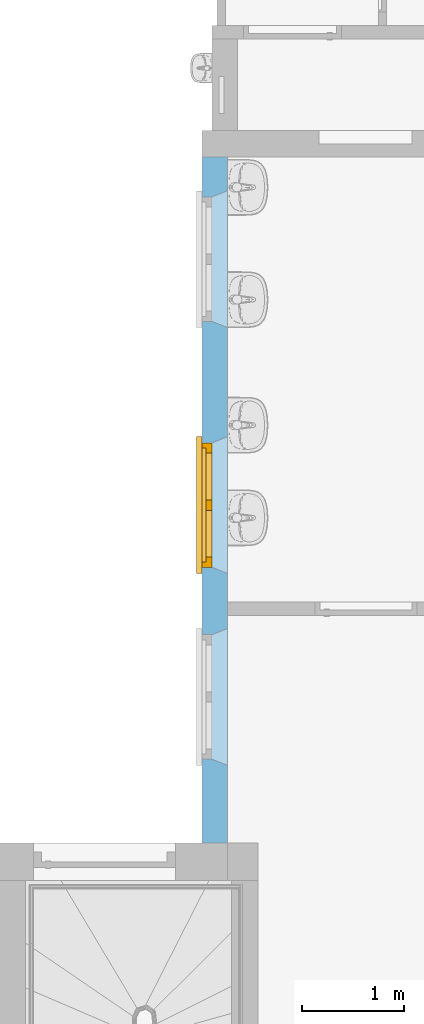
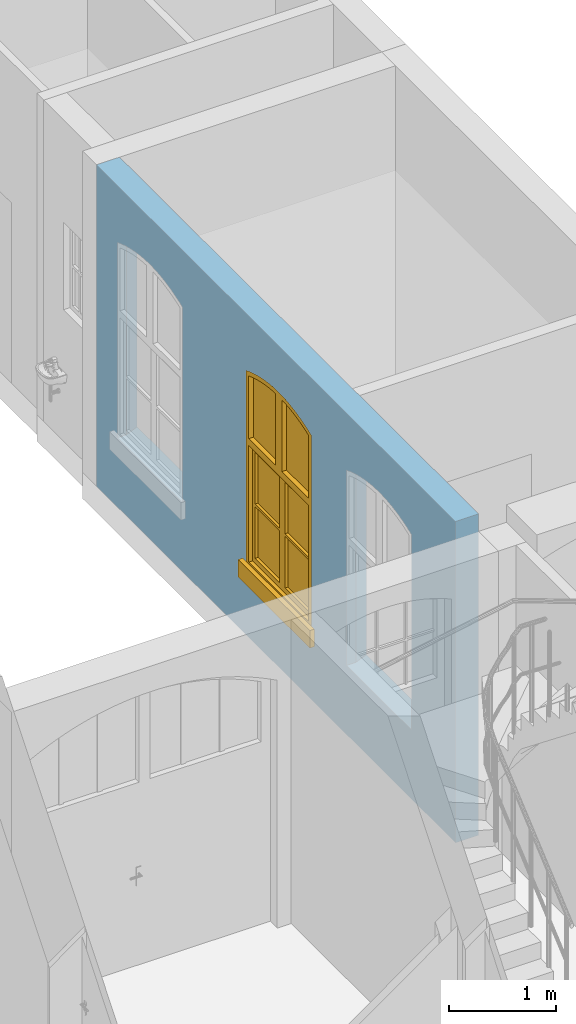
"""IFC4 building model written with IfcOpenShell, lengths in metres."""

import ifcopenshell
import ifcopenshell.guid

model = None  # the IFC model being written
_history = None  # IfcOwnerHistory: only IFC2X3 demands one
_inside = {}  # id of a spatial element -> (the spatial element, [elements in it])
_under = {}  # id of a project, library or spatial element -> (it, [spatial elements below it])
_declared = {}  # id of a project -> (the project, [libraries it declares])
_typed = {}  # id of a type object -> (the type object, [elements of that type])
_made_of = {}  # id of a material, layer set ... -> (it, [elements and type objects made of it])


def new_model(schema):
    """Start an empty IFC model of exactly this schema.

    Asked for "IFC4X3", IfcOpenShell would pick the latest addendum, in which some entities
    have other attributes; the version numbers below select the first issue.
    IFC2X3 requires an IfcOwnerHistory on every rooted entity: one is made here for all.
    """
    global model, _history
    if schema == "IFC4X3":
        model = ifcopenshell.file(schema_version=(4, 3, 0, 0))
    else:
        model = ifcopenshell.file(schema=schema)
    _inside.clear()
    _under.clear()
    _declared.clear()
    _typed.clear()
    _made_of.clear()
    _history = None
    if model.schema == "IFC2X3":
        org = make("IfcOrganization", Name="unknown")
        user = make(
            "IfcPersonAndOrganization",
            ThePerson=make("IfcPerson", FamilyName="unknown"),
            TheOrganization=org,
        )
        app = make(
            "IfcApplication",
            ApplicationDeveloper=org,
            Version="unknown",
            ApplicationFullName="unknown",
            ApplicationIdentifier="unknown",
        )
        _history = make(
            "IfcOwnerHistory",
            OwningUser=user,
            OwningApplication=app,
            ChangeAction="ADDED",
            CreationDate=0,
        )
    return model


def make(cls, **values):
    """One entity of the class cls with the attributes given. An attribute that is None is left unset."""
    return model.create_entity(
        cls, **{name: value for name, value in values.items() if value is not None}
    )


def entity(cls, *values):
    """Any entity or typed value of the class cls, its attributes in the order of the schema. None: left unset."""
    e = model.create_entity(cls)
    for i, value in enumerate(values):
        if value is not None:
            e[i] = value
    return e


def rooted(cls, **values):
    """An entity with a GlobalId (a new one), such as an element, a storey or a relation."""
    return make(cls, GlobalId=ifcopenshell.guid.new(), OwnerHistory=_history, **values)


def si_unit(unit_type, name, prefix=None):
    """IfcSIUnit, for example si_unit("LENGTHUNIT", "METRE", prefix="MILLI")."""
    return make("IfcSIUnit", UnitType=unit_type, Prefix=prefix, Name=name)


def converted_unit(unit_type, name, factor, base, dimensions=None, offset=None):
    """IfcConversionBasedUnit, such as the inch: factor (a typed value) times the base unit."""
    return make(
        "IfcConversionBasedUnit"
        if offset is None
        else "IfcConversionBasedUnitWithOffset",
        ConversionOffset=offset,
        Dimensions=None
        if dimensions is None
        else entity("IfcDimensionalExponents", *dimensions),
        UnitType=unit_type,
        Name=name,
        ConversionFactor=make(
            "IfcMeasureWithUnit", ValueComponent=factor, UnitComponent=base
        ),
    )


def derived_unit(unit_type, elements):
    """IfcDerivedUnit: a product of units, each with its exponent."""
    return make(
        "IfcDerivedUnit",
        Elements=[
            make("IfcDerivedUnitElement", Unit=unit, Exponent=power)
            for unit, power in elements
        ],
        UnitType=unit_type,
    )


def assignment(units):
    """IfcUnitAssignment: the units of a project."""
    return None if units is None else make("IfcUnitAssignment", Units=units)


def point(xyz):
    """IfcCartesianPoint."""
    return None if xyz is None else make("IfcCartesianPoint", Coordinates=xyz)


def direction(xyz):
    """IfcDirection."""
    return None if xyz is None else make("IfcDirection", DirectionRatios=xyz)


def frame(location, z_axis=None, x_axis=None):
    """IfcAxis2Placement3D, a coordinate frame: its origin and axes. An axis left out is left unset."""
    return make(
        "IfcAxis2Placement3D",
        Location=point(location),
        Axis=direction(z_axis),
        RefDirection=direction(x_axis),
    )


def frame_2d(location, x_axis=None):
    """IfcAxis2Placement2D, a coordinate frame in the plane: its origin and x axis."""
    return make(
        "IfcAxis2Placement2D", Location=point(location), RefDirection=direction(x_axis)
    )


def origin():
    """The frame at (0, 0, 0) with its axes left unset."""
    return frame((0.0, 0.0, 0.0))


def origin_with_axes():
    """The frame at (0, 0, 0) with the z axis (0, 0, 1) and the x axis (1, 0, 0) written out."""
    return frame((0.0, 0.0, 0.0), z_axis=(0.0, 0.0, 1.0), x_axis=(1.0, 0.0, 0.0))


def place(relative_to, where):
    """IfcLocalPlacement: puts the frame where relative to a parent placement (None: the world)."""
    return make(
        "IfcLocalPlacement", PlacementRelTo=relative_to, RelativePlacement=where
    )


def context(
    kind, dimensions, precision=None, world=None, true_north=None, identifier=None
):
    """IfcGeometricRepresentationContext, for example the 3D "Model" context."""
    return make(
        "IfcGeometricRepresentationContext",
        ContextIdentifier=identifier,
        ContextType=kind,
        CoordinateSpaceDimension=dimensions,
        Precision=precision,
        WorldCoordinateSystem=world,
        TrueNorth=true_north,
    )


def subcontext(parent, identifier, kind, view, scale=None):
    """IfcGeometricRepresentationSubContext, for example "Body" below "Model"."""
    return make(
        "IfcGeometricRepresentationSubContext",
        ContextIdentifier=identifier,
        ContextType=kind,
        ParentContext=parent,
        TargetScale=scale,
        TargetView=view,
    )


def project(units=None, contexts=None):
    """IfcProject with its units and contexts."""
    return rooted(
        "IfcProject",
        Name="project",
        RepresentationContexts=contexts,
        UnitsInContext=assignment(units),
    )


def spatial(cls, under=None, at=None, **own):
    """A site, building, storey or space (cls), placed at a placement, below another one or the project."""
    s = rooted(cls, ObjectPlacement=at, **own)
    if under is not None:
        _under.setdefault(under.id(), (under, []))[1].append(s)
    return s


def polyline(points):
    """IfcPolyline through the points."""
    return make("IfcPolyline", Points=[point(p) for p in points])


def profile(cls, at=None, kind="AREA", **sizes):
    """A parametric profile (cls). Its sizes go by their IFC names, for example OverallWidth=200.0."""
    return make(cls, ProfileType=kind, Position=at, **sizes)


def rectangle(**sizes):
    """IfcRectangleProfileDef."""
    return profile("IfcRectangleProfileDef", **sizes)


def outline(outer, holes=None, kind="AREA"):
    """IfcArbitraryClosedProfileDef: a profile drawn as a closed curve; with holes, ...WithVoids."""
    if holes is None:
        return make("IfcArbitraryClosedProfileDef", ProfileType=kind, OuterCurve=outer)
    return make(
        "IfcArbitraryProfileDefWithVoids",
        ProfileType=kind,
        OuterCurve=outer,
        InnerCurves=holes,
    )


def extrude(swept, where, along, depth):
    """IfcExtrudedAreaSolid: the profile swept, set in the frame where, extruded along a direction by depth."""
    return make(
        "IfcExtrudedAreaSolid",
        SweptArea=swept,
        Position=where,
        ExtrudedDirection=direction(along),
        Depth=depth,
    )


def faces_of(points, faces, orient=None, outer=None):
    """IfcFace entities. A face is a list of loops; a loop is a list of indices into points, from 0.

    orient and outer hold one flag for each loop. By default every Orientation is true, the
    first loop of a face is its IfcFaceOuterBound and the others are IfcFaceBound.
    """
    made = []
    for i, loops in enumerate(faces):
        bounds = []
        for j, loop in enumerate(loops):
            is_outer = j == 0 if outer is None else outer[i][j]
            bounds.append(
                make(
                    "IfcFaceOuterBound" if is_outer else "IfcFaceBound",
                    Bound=make("IfcPolyLoop", Polygon=[points[k] for k in loop]),
                    Orientation=True if orient is None else orient[i][j],
                )
            )
        made.append(make("IfcFace", Bounds=bounds))
    return made


def closed_shell(faces, orient=None, outer=None):
    """The faces of one IfcClosedShell. faceted_brep and surface_model build it on their shared points."""
    return ("IfcClosedShell", faces, orient, outer)


def open_shell(faces, orient=None, outer=None):
    """The faces of one IfcOpenShell. surface_model builds it on its shared points."""
    return ("IfcOpenShell", faces, orient, outer)


def surface_model(cls, points, shells):
    """IfcFaceBasedSurfaceModel or IfcShellBasedSurfaceModel (cls): surfaces that need not close."""
    shared = [point(p) for p in points]
    made = [make(c, CfsFaces=faces_of(shared, fs, o, b)) for c, fs, o, b in shells]
    if cls == "IfcFaceBasedSurfaceModel":
        return make(cls, FbsmFaces=made)
    return make(cls, SbsmBoundary=made)


def shape(context_of_items, identifier, shape_type, items):
    """IfcShapeRepresentation: the items that make up one representation, for example the "Body"."""
    return make(
        "IfcShapeRepresentation",
        ContextOfItems=context_of_items,
        RepresentationIdentifier=identifier,
        RepresentationType=shape_type,
        Items=items,
    )


def source(mapping_origin, context_of_items, identifier, shape_type, items):
    """IfcRepresentationMap: a shape defined once, which mapped items show again and again."""
    return make(
        "IfcRepresentationMap",
        MappingOrigin=mapping_origin,
        MappedRepresentation=shape(context_of_items, identifier, shape_type, items),
    )


def transform(
    local_origin,
    x_axis=None,
    y_axis=None,
    z_axis=None,
    scale=None,
    scale2=None,
    scale3=None,
    uniform=True,
):
    """IfcCartesianTransformationOperator3D, or its non-uniform kind. x_axis, y_axis, z_axis: its Axis1, 2, 3."""
    if uniform:
        return make(
            "IfcCartesianTransformationOperator3D",
            Axis1=direction(x_axis),
            Axis2=direction(y_axis),
            LocalOrigin=point(local_origin),
            Scale=scale,
            Axis3=direction(z_axis),
        )
    return make(
        "IfcCartesianTransformationOperator3DnonUniform",
        Axis1=direction(x_axis),
        Axis2=direction(y_axis),
        LocalOrigin=point(local_origin),
        Scale=scale,
        Axis3=direction(z_axis),
        Scale2=scale2,
        Scale3=scale3,
    )


def mapped(mapping_source, mapping_target):
    """IfcMappedItem: shows the shape of a source again, moved by a transform."""
    return make(
        "IfcMappedItem", MappingSource=mapping_source, MappingTarget=mapping_target
    )


def material(Name=None, Category=None):
    """IfcMaterial."""
    return make("IfcMaterial", Name=Name, Category=Category)


def layer(
    of_material, thickness, ventilated=None, Name=None, Category=None, Priority=None
):
    """IfcMaterialLayer: one layer of a wall or slab, of a material (None: an air gap)."""
    return make(
        "IfcMaterialLayer",
        Material=of_material,
        LayerThickness=thickness,
        IsVentilated=ventilated,
        Name=Name,
        Category=Category,
        Priority=Priority,
    )


def layer_set(layers, Name=None):
    """IfcMaterialLayerSet."""
    return make("IfcMaterialLayerSet", MaterialLayers=layers, LayerSetName=Name)


def layer_usage(for_layer_set, set_direction, sense, offset, extent=None):
    """IfcMaterialLayerSetUsage: how a layer set lies in its element."""
    return make(
        "IfcMaterialLayerSetUsage",
        ForLayerSet=for_layer_set,
        LayerSetDirection=set_direction,
        DirectionSense=sense,
        OffsetFromReferenceLine=offset,
        ReferenceExtent=extent,
    )


def made_of(thing, what):
    """Note that an element or type object is made of a material, layer set ...; save() writes the relation."""
    if what is not None:
        _made_of.setdefault(what.id(), (what, []))[1].append(thing)
    return thing


def element(
    cls,
    number,
    at=None,
    inside=None,
    cuts=None,
    type_object=None,
    material=None,
    context=None,
    identifier="Body",
    shape_type=None,
    held_by="IfcProductDefinitionShape",
    body=None,
    shapes=None,
    **own,
):
    """One element of the class cls, such as IfcWall. Its Tag is "e" and its number.

    at: its placement. inside: the storey or other place that contains it. cuts: it is an
    opening in that element (IfcRelVoidsElement). A single representation is given by context,
    identifier, shape_type and body (its items); several are given by shapes. held_by: the class
    of the entity that holds the representations. save() writes the other relations.
    """
    e = rooted(cls, Tag="e%d" % number, ObjectPlacement=at, **own)
    if body is not None:
        shapes = [shape(context, identifier, shape_type, body)]
    if shapes is not None:
        e.Representation = make(held_by, Representations=shapes)
    if inside is not None:
        _inside.setdefault(inside.id(), (inside, []))[1].append(e)
    if cuts is not None:
        rooted(
            "IfcRelVoidsElement", RelatingBuildingElement=cuts, RelatedOpeningElement=e
        )
    if type_object is not None:
        _typed.setdefault(type_object.id(), (type_object, []))[1].append(e)
    return made_of(e, material)


def fill(opening, filler):
    """IfcRelFillsElement: the door or window that sits in an opening."""
    return rooted(
        "IfcRelFillsElement",
        RelatingOpeningElement=opening,
        RelatedBuildingElement=filler,
    )


def aggregate(whole, parts):
    """IfcRelAggregates: a whole, such as a stair, and the parts it consists of."""
    return rooted("IfcRelAggregates", RelatingObject=whole, RelatedObjects=parts)


def save(model, path):
    """Write the relations noted so far, then the file.

    IfcRelAggregates (storeys below a building ...), IfcRelContainedInSpatialStructure (elements
    in a storey), IfcRelDefinesByType, IfcRelAssociatesMaterial and IfcRelDeclares: one each for
    every whole, place, type object, material and project.
    """
    for whole, parts in _under.values():
        aggregate(whole, parts)
    for where, things in _inside.values():
        rooted(
            "IfcRelContainedInSpatialStructure",
            RelatedElements=things,
            RelatingStructure=where,
        )
    for kind, things in _typed.values():
        rooted("IfcRelDefinesByType", RelatedObjects=things, RelatingType=kind)
    for what, things in _made_of.values():
        rooted("IfcRelAssociatesMaterial", RelatedObjects=things, RelatingMaterial=what)
    for by, libraries in _declared.values():
        rooted("IfcRelDeclares", RelatingContext=by, RelatedDefinitions=libraries)
    model.write(path)


model = new_model("IFC4")

# Units and contexts
model_context = context("Model", 3, precision=1e-05, world=origin())
body_context = subcontext(model_context, "Body", "Model", "MODEL_VIEW")
ifc_project = project(units=[si_unit("LENGTHUNIT", "METRE"), si_unit("AREAUNIT", "SQUARE_METRE"), si_unit("VOLUMEUNIT", "CUBIC_METRE"), si_unit("MASSUNIT", "GRAM", prefix="KILO"), converted_unit("PLANEANGLEUNIT", "DEGREE", entity("IfcPlaneAngleMeasure", 0.0174532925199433), si_unit("PLANEANGLEUNIT", "RADIAN"), dimensions=[0, 0, 0, 0, 0, 0, 0]), derived_unit("THERMALTRANSMITTANCEUNIT", [(si_unit("POWERUNIT", "WATT"), 1), (si_unit("THERMODYNAMICTEMPERATUREUNIT", "KELVIN"), -1), (si_unit("LENGTHUNIT", "METRE"), -2)]), derived_unit("VOLUMETRICFLOWRATEUNIT", [(si_unit("LENGTHUNIT", "METRE"), 3), (converted_unit("TIMEUNIT", "hour", entity("IfcTimeMeasure", 3600.0), si_unit("TIMEUNIT", "SECOND"), dimensions=[0, 0, 1, 0, 0, 0, 0]), -1), (si_unit("LENGTHUNIT", "METRE"), -1)])], contexts=[model_context])

# Building, storeys
building_placement = place(None, origin())
building = spatial("IfcBuilding", under=ifc_project, at=building_placement, Name="Bestandsgebäude A - Sporthalle / Wohnhaus (TB 100-499)   ANPASSEN !!!", CompositionType="ELEMENT")
storey_1_placement = place(building_placement, origin())
storey_1 = spatial("IfcBuildingStorey", under=building, at=storey_1_placement, Name="Geb. A Erdgeschoss (TB 200-249)", CompositionType="ELEMENT", Elevation=0.0)
storey_2_placement = place(storey_1_placement, origin())
storey_2 = spatial("IfcBuildingStorey", under=storey_1, at=storey_2_placement, Name="Architektur (TB 200-209)", CompositionType="PARTIAL")

# Wall, openings, window
ifc_material = material(Name="concrete")
ifc_layer = layer(ifc_material, 0.25)
ifc_layer_set = layer_set([ifc_layer])
ifc_layer_usage = layer_usage(ifc_layer_set, "AXIS2", "POSITIVE", 0.0)
wall_placement = place(storey_2_placement, frame((-3.49000000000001, 15.97, 0.0), z_axis=(0.0, 0.0, 1.0), x_axis=(-2.70682946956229e-16, -1.0, 0.0)))
wall = element("IfcWall", 1, at=wall_placement, inside=storey_2, material=ifc_layer_usage, Name="reinforced - bearing", PredefinedType="USERDEFINED", context=body_context, shape_type="SweptSolid", body=[
    extrude(rectangle(XDim=6.72, YDim=0.25, at=frame_2d((3.36, 0.125), x_axis=(1.0, 0.0))), origin_with_axes(), (0.0, 0.0, 1.0), 3.67),
])
opening_1_placement = place(wall_placement, frame((5.96, 0.25, 0.79), z_axis=(0.0, 0.0, 1.0), x_axis=(-1.0, 6.36306927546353e-17, 0.0)))
element("IfcOpeningElement", 2, at=opening_1_placement, cuts=wall, Name="Wall Niche", ObjectType="Opening", context=body_context, shape_type="SweptSolid", body=[
    extrude(outline(polyline([(0.0, 0.0), (1.34000000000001, 0.0), (1.28000000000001, 0.15), (0.0600000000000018, 0.15), (0.0, 0.0)])), origin_with_axes(), (0.0, 0.0, 1.0), 2.3),
])
opening_2_placement = place(wall_placement, frame((4.08, 0.25, 0.79), z_axis=(0.0, 0.0, 1.0), x_axis=(-1.0, 6.36306927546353e-17, 0.0)))
element("IfcOpeningElement", 3, at=opening_2_placement, cuts=wall, Name="Wall Niche", ObjectType="Opening", context=body_context, shape_type="SweptSolid", body=[
    extrude(outline(polyline([(0.0, 0.0), (1.34000000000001, 0.0), (1.28000000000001, 0.15), (0.0600000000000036, 0.15), (0.0, 0.0)])), origin_with_axes(), (0.0, 0.0, 1.0), 2.3),
])
opening_3_placement = place(wall_placement, frame((1.67, 0.25, 0.79), z_axis=(0.0, 0.0, 1.0), x_axis=(-1.0, -2.75733001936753e-16, 0.0)))
element("IfcOpeningElement", 4, at=opening_3_placement, cuts=wall, Name="Wall Niche", ObjectType="Opening", context=body_context, shape_type="SweptSolid", body=[
    extrude(outline(polyline([(0.0, 0.0), (1.34000000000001, 0.0), (1.28000000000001, 0.15), (0.06, 0.15), (0.0, 0.0)])), origin_with_axes(), (0.0, 0.0, 1.0), 2.3),
])
opening_4_placement = place(wall_placement, frame((4.68, 0.0, 0.79), z_axis=(0.0, 1.0, 0.0), x_axis=(0.0, 0.0, 1.0)))
element("IfcOpeningElement", 5, at=opening_4_placement, cuts=wall, Name="Window opening", PredefinedType="OPENING", context=body_context, shape_type="SweptSolid", body=[
    extrude(outline(polyline([(2.23, 1.22), (2.24529668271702, 1.18119974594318), (2.25958346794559, 1.14201638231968), (2.27285077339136, 1.102476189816), (2.28508970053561, 1.06260568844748), (2.29629204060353, 1.02243161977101), (2.30645028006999, 0.981980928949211), (2.31555760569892, 0.941280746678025), (2.32360790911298, 0.900358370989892), (2.33059579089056, 0.859241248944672), (2.33651656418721, 0.817956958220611), (2.34136625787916, 0.776533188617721), (2.34514161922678, 0.734997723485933), (2.34784011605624, 0.693378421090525), (2.34945993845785, 0.65170319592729), (2.35, 0.610000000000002), (2.34945993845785, 0.568296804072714), (2.34784011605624, 0.52662157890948), (2.34514161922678, 0.485002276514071), (2.34136625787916, 0.443466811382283), (2.33651656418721, 0.40204304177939), (2.33059579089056, 0.360758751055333), (2.32360790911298, 0.31964162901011), (2.31555760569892, 0.278719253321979), (2.30645028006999, 0.23801907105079), (2.29629204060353, 0.197568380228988), (2.2850897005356, 0.15739431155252), (2.27285077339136, 0.117523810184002), (2.25958346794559, 0.0779836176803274), (2.24529668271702, 0.0388002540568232), (2.23, 0.0), (0.0, 0.0), (0.0, 1.22), (2.23, 1.22)])), origin_with_axes(), (0.0, 0.0, 1.0), 0.25),
])
opening_5_placement = place(wall_placement, frame((2.79999999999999, 0.0, 0.79), z_axis=(0.0, 1.0, 0.0), x_axis=(0.0, 0.0, 1.0)))
opening_5 = element("IfcOpeningElement", 6, at=opening_5_placement, cuts=wall, Name="Window opening", PredefinedType="OPENING", context=body_context, shape_type="SweptSolid", body=[
    extrude(outline(polyline([(2.23, 1.22000000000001), (2.24529668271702, 1.18119974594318), (2.25958346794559, 1.14201638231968), (2.27285077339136, 1.102476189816), (2.2850897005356, 1.06260568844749), (2.29629204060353, 1.02243161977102), (2.30645028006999, 0.981980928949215), (2.31555760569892, 0.941280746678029), (2.32360790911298, 0.900358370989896), (2.33059579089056, 0.859241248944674), (2.33651656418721, 0.817956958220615), (2.34136625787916, 0.776533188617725), (2.34514161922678, 0.734997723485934), (2.34784011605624, 0.693378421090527), (2.34945993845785, 0.651703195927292), (2.35, 0.610000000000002), (2.34945993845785, 0.568296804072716), (2.34784011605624, 0.52662157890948), (2.34514161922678, 0.485002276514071), (2.34136625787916, 0.443466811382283), (2.33651656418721, 0.402043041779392), (2.33059579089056, 0.360758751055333), (2.32360790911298, 0.319641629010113), (2.31555760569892, 0.278719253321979), (2.30645028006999, 0.23801907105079), (2.29629204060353, 0.19756838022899), (2.2850897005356, 0.15739431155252), (2.27285077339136, 0.117523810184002), (2.25958346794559, 0.0779836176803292), (2.24529668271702, 0.0388002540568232), (2.23, 0.0), (0.0, 0.0), (0.0, 1.22000000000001), (2.23, 1.22000000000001)])), origin_with_axes(), (0.0, 0.0, 1.0), 0.25),
])
opening_6_placement = place(wall_placement, frame((0.389999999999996, 0.0, 0.79), z_axis=(-2.27373675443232e-16, 1.0, 0.0), x_axis=(0.0, 0.0, 1.0)))
element("IfcOpeningElement", 7, at=opening_6_placement, cuts=wall, Name="Window opening", PredefinedType="OPENING", context=body_context, shape_type="SweptSolid", body=[
    extrude(outline(polyline([(2.23, 1.22), (2.24529668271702, 1.18119974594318), (2.25958346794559, 1.14201638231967), (2.27285077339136, 1.102476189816), (2.28508970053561, 1.06260568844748), (2.29629204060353, 1.02243161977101), (2.30645028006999, 0.981980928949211), (2.31555760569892, 0.941280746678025), (2.32360790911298, 0.900358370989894), (2.33059579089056, 0.859241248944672), (2.33651656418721, 0.817956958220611), (2.34136625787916, 0.776533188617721), (2.34514161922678, 0.734997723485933), (2.34784011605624, 0.693378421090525), (2.34945993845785, 0.65170319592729), (2.35, 0.610000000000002), (2.34945993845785, 0.568296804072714), (2.34784011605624, 0.526621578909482), (2.34514161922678, 0.485002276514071), (2.34136625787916, 0.443466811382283), (2.33651656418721, 0.40204304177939), (2.33059579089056, 0.360758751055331), (2.32360790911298, 0.31964162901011), (2.31555760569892, 0.278719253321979), (2.30645028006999, 0.23801907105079), (2.29629204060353, 0.19756838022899), (2.2850897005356, 0.15739431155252), (2.27285077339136, 0.117523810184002), (2.25958346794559, 0.0779836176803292), (2.24529668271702, 0.0388002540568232), (2.23, 0.0), (0.0, 0.0), (0.0, 1.22), (2.23, 1.22)])), origin_with_axes(), (0.0, 0.0, 1.0), 0.25),
])
shared_shape = source(origin_with_axes(), body_context, "Body", "SurfaceModel", [
    surface_model("IfcShellBasedSurfaceModel", [(1.28, 0.15, -0.15), (1.28, 0.0999999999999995, -0.15), (1.28, 0.0999999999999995, 0.05), (1.28, 0.15, 0.05), (-0.0600000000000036, 0.0999999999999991, -0.15), (-0.0600000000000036, 0.149999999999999, -0.15), (-0.0600000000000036, 0.149999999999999, 0.0500000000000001), (-0.0600000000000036, 0.0999999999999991, 0.0500000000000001)], [closed_shell([[[0, 1, 2, 3]], [[4, 5, 6, 7]], [[1, 0, 5, 4]], [[2, 1, 4, 7]], [[3, 2, 7, 6]], [[0, 3, 6, 5]]], orient=[[False], [False], [False], [False], [False], [False]])]),
    surface_model("IfcShellBasedSurfaceModel", [(1.181199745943, 0.0, 2.245296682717), (1.22, 0.0, 2.23), (1.22, 0.0, 0.0), (0.0, 0.0, 0.0), (0.0, 0.0, 2.23), (0.038800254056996, 0.0, 2.245296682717), (0.0779836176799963, 0.0, 2.259583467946), (0.117523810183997, 0.0, 2.272850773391), (0.157394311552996, 0.0, 2.285089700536), (0.197568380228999, 0.0, 2.296292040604), (0.238019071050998, 0.0, 2.30645028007), (0.278719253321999, 0.0, 2.315557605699), (0.319641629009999, 0.0, 2.323607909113), (0.360758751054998, 0.0, 2.330595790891), (0.402043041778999, 0.0, 2.336516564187), (0.443466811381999, 0.0, 2.341366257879), (0.485002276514, 0.0, 2.345141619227), (0.526621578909, 0.0, 2.347840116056), (0.568296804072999, 0.0, 2.349459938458), (0.61, 0.0, 2.35), (0.651703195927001, 0.0, 2.349459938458), (0.693378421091, 0.0, 2.347840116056), (0.734997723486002, 0.0, 2.345141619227), (0.776533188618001, 0.0, 2.341366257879), (0.817956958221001, 0.0, 2.336516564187), (0.859241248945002, 0.0, 2.330595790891), (0.900358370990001, 0.0, 2.323607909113), (0.941280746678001, 0.0, 2.315557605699), (0.981980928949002, 0.0, 2.30645028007), (1.022431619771, 0.0, 2.296292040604), (1.062605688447, 0.0, 2.285089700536), (1.102476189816, 0.0, 2.272850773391), (1.14201638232, 0.0, 2.259583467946), (1.17, 0.0, 2.19596670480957), (1.16346372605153, 0.0, 2.19854357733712), (1.12549702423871, 0.0, 2.21238675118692), (1.08718457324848, 0.0, 2.22524210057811), (1.04855206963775, 0.0, 2.23710100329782), (1.00962542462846, 0.0, 2.24795550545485), (0.970430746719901, 0.0, 2.25779832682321), (0.930994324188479, 0.0, 2.26662286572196), (0.891342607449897, 0.0, 2.27442320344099), (0.851502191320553, 0.0, 2.28119410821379), (0.811499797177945, 0.0, 2.28693103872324), (0.77136225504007, 0.0, 2.29163014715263), (0.731116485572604, 0.0, 2.29528828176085), (0.690789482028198, 0.0, 2.29790298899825), (0.650408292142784, 0.0, 2.2994725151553), (0.61, 0.0, 2.29999580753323), (0.569591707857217, 0.0, 2.2994725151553), (0.529210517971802, 0.0, 2.29790298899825), (0.488883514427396, 0.0, 2.29528828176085), (0.448637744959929, 0.0, 2.29163014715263), (0.408500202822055, 0.0, 2.28693103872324), (0.368497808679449, 0.0, 2.28119410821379), (0.328657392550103, 0.0, 2.27442320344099), (0.289005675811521, 0.0, 2.26662286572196), (0.249569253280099, 0.0, 2.25779832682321), (0.210374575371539, 0.0, 2.24795550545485), (0.171447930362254, 0.0, 2.23710100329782), (0.132815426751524, 0.0, 2.22524210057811), (0.0945029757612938, 0.0, 2.21238675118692), (0.0565362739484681, 0.0, 2.19854357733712), (0.0499999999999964, 0.0, 2.19596670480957), (0.0499999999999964, 0.0, 0.07), (1.17, 0.0, 0.07), (1.22, 0.0999999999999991, 2.23), (1.181199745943, 0.0999999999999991, 2.245296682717), (1.14201638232, 0.0999999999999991, 2.259583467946), (1.102476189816, 0.0999999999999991, 2.272850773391), (1.062605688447, 0.0999999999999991, 2.285089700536), (1.022431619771, 0.0999999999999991, 2.296292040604), (0.981980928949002, 0.0999999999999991, 2.30645028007), (0.941280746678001, 0.0999999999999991, 2.315557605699), (0.900358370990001, 0.0999999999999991, 2.323607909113), (0.859241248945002, 0.0999999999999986, 2.330595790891), (0.817956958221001, 0.0999999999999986, 2.336516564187), (0.776533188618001, 0.0999999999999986, 2.341366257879), (0.734997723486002, 0.0999999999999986, 2.345141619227), (0.693378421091, 0.0999999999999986, 2.347840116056), (0.651703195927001, 0.0999999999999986, 2.349459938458), (0.61, 0.0999999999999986, 2.35), (0.568296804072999, 0.0999999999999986, 2.349459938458), (0.526621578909, 0.0999999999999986, 2.347840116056), (0.485002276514, 0.0999999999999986, 2.345141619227), (0.443466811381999, 0.0999999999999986, 2.341366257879), (0.402043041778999, 0.0999999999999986, 2.336516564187), (0.360758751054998, 0.0999999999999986, 2.330595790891), (0.319641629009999, 0.0999999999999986, 2.323607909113), (0.278719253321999, 0.0999999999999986, 2.315557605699), (0.238019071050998, 0.0999999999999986, 2.30645028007), (0.197568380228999, 0.0999999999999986, 2.296292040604), (0.157394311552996, 0.0999999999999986, 2.285089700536), (0.117523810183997, 0.0999999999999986, 2.272850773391), (0.0779836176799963, 0.0999999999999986, 2.259583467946), (0.038800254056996, 0.0999999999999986, 2.245296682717), (0.0, 0.0999999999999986, 2.23), (0.0, 0.0999999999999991, 0.0), (1.22, 0.0999999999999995, 0.0), (1.16346372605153, 0.0999999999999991, 2.19854357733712), (1.17, 0.0999999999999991, 2.19596670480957), (1.17, 0.0999999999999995, 0.07), (0.0499999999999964, 0.0999999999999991, 0.07), (0.0499999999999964, 0.0999999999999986, 2.19596670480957), (0.0565362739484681, 0.0999999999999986, 2.19854357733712), (0.0945029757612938, 0.0999999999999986, 2.21238675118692), (0.132815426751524, 0.0999999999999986, 2.22524210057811), (0.171447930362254, 0.0999999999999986, 2.23710100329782), (0.210374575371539, 0.0999999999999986, 2.24795550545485), (0.249569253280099, 0.0999999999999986, 2.25779832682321), (0.289005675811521, 0.0999999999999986, 2.26662286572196), (0.328657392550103, 0.0999999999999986, 2.27442320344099), (0.368497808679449, 0.0999999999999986, 2.28119410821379), (0.408500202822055, 0.0999999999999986, 2.28693103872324), (0.448637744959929, 0.0999999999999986, 2.29163014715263), (0.488883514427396, 0.0999999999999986, 2.29528828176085), (0.529210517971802, 0.0999999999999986, 2.29790298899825), (0.569591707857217, 0.0999999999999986, 2.2994725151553), (0.61, 0.0999999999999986, 2.29999580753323), (0.650408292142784, 0.0999999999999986, 2.2994725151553), (0.690789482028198, 0.0999999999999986, 2.29790298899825), (0.731116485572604, 0.0999999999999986, 2.29528828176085), (0.77136225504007, 0.0999999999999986, 2.29163014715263), (0.811499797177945, 0.0999999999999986, 2.28693103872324), (0.851502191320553, 0.0999999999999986, 2.28119410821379), (0.891342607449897, 0.0999999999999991, 2.27442320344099), (0.930994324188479, 0.0999999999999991, 2.26662286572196), (0.970430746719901, 0.0999999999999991, 2.25779832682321), (1.00962542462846, 0.0999999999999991, 2.24795550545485), (1.04855206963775, 0.0999999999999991, 2.23710100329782), (1.08718457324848, 0.0999999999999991, 2.22524210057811), (1.12549702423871, 0.0999999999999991, 2.21238675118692)], [closed_shell([[[0, 1, 2, 3, 4, 5, 6, 7, 8, 9, 10, 11, 12, 13, 14, 15, 16, 17, 18, 19, 20, 21, 22, 23, 24, 25, 26, 27, 28, 29, 30, 31, 32], [33, 34, 35, 36, 37, 38, 39, 40, 41, 42, 43, 44, 45, 46, 47, 48, 49, 50, 51, 52, 53, 54, 55, 56, 57, 58, 59, 60, 61, 62, 63, 64, 65]], [[66, 67, 68, 69, 70, 71, 72, 73, 74, 75, 76, 77, 78, 79, 80, 81, 82, 83, 84, 85, 86, 87, 88, 89, 90, 91, 92, 93, 94, 95, 96, 97, 98], [99, 100, 101, 102, 103, 104, 105, 106, 107, 108, 109, 110, 111, 112, 113, 114, 115, 116, 117, 118, 119, 120, 121, 122, 123, 124, 125, 126, 127, 128, 129, 130, 131]], [[1, 0, 67, 66]], [[2, 1, 66, 98]], [[3, 2, 98, 97]], [[4, 3, 97, 96]], [[5, 4, 96, 95]], [[6, 5, 95, 94]], [[7, 6, 94, 93]], [[8, 7, 93, 92]], [[9, 8, 92, 91]], [[10, 9, 91, 90]], [[11, 10, 90, 89]], [[12, 11, 89, 88]], [[13, 12, 88, 87]], [[14, 13, 87, 86]], [[15, 14, 86, 85]], [[16, 15, 85, 84]], [[17, 16, 84, 83]], [[18, 17, 83, 82]], [[19, 18, 82, 81]], [[20, 19, 81, 80]], [[21, 20, 80, 79]], [[22, 21, 79, 78]], [[23, 22, 78, 77]], [[24, 23, 77, 76]], [[25, 24, 76, 75]], [[26, 25, 75, 74]], [[27, 26, 74, 73]], [[28, 27, 73, 72]], [[29, 28, 72, 71]], [[30, 29, 71, 70]], [[31, 30, 70, 69]], [[32, 31, 69, 68]], [[0, 32, 68, 67]], [[33, 100, 99, 34]], [[65, 101, 100, 33]], [[64, 102, 101, 65]], [[63, 103, 102, 64]], [[62, 104, 103, 63]], [[61, 105, 104, 62]], [[60, 106, 105, 61]], [[59, 107, 106, 60]], [[58, 108, 107, 59]], [[57, 109, 108, 58]], [[56, 110, 109, 57]], [[55, 111, 110, 56]], [[54, 112, 111, 55]], [[53, 113, 112, 54]], [[52, 114, 113, 53]], [[51, 115, 114, 52]], [[50, 116, 115, 51]], [[49, 117, 116, 50]], [[48, 118, 117, 49]], [[47, 119, 118, 48]], [[46, 120, 119, 47]], [[45, 121, 120, 46]], [[44, 122, 121, 45]], [[43, 123, 122, 44]], [[42, 124, 123, 43]], [[41, 125, 124, 42]], [[40, 126, 125, 41]], [[39, 127, 126, 40]], [[38, 128, 127, 39]], [[37, 129, 128, 38]], [[36, 130, 129, 37]], [[35, 131, 130, 36]], [[34, 99, 131, 35]]], orient=[[False, False], [False, False], [False], [False], [False], [False], [False], [False], [False], [False], [False], [False], [False], [False], [False], [False], [False], [False], [False], [False], [False], [False], [False], [False], [False], [False], [False], [False], [False], [False], [False], [False], [False], [False], [False], [False], [False], [False], [False], [False], [False], [False], [False], [False], [False], [False], [False], [False], [False], [False], [False], [False], [False], [False], [False], [False], [False], [False], [False], [False], [False], [False], [False], [False], [False], [False], [False], [False]])]),
    surface_model("IfcShellBasedSurfaceModel", [(1.17, 0.0, 1.48), (1.17, 0.0, 1.4), (0.0499999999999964, 0.0, 1.4), (0.0499999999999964, 0.0, 1.48), (1.17, 0.0999999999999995, 1.4), (1.17, 0.0999999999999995, 1.48), (0.0499999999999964, 0.0999999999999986, 1.48), (0.0499999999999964, 0.0999999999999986, 1.4)], [closed_shell([[[0, 1, 2, 3]], [[4, 5, 6, 7]], [[1, 0, 5, 4]], [[2, 1, 4, 7]], [[3, 2, 7, 6]], [[0, 3, 6, 5]]], orient=[[False], [False], [False], [False], [False], [False]])]),
    surface_model("IfcShellBasedSurfaceModel", [(0.67, 0.0, 2.29871102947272), (0.67, 0.0, 1.48), (0.55, 0.0, 1.48), (0.55, 0.0, 2.29871102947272), (0.569591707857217, 0.0, 2.2994725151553), (0.61, 0.0, 2.29999580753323), (0.650408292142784, 0.0, 2.2994725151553), (0.67, 0.0999999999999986, 1.48), (0.67, 0.0999999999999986, 2.29871102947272), (0.650408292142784, 0.0999999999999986, 2.2994725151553), (0.61, 0.0999999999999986, 2.29999580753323), (0.569591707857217, 0.0999999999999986, 2.2994725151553), (0.55, 0.0999999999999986, 2.29871102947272), (0.55, 0.0999999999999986, 1.48)], [closed_shell([[[0, 1, 2, 3, 4, 5, 6]], [[7, 8, 9, 10, 11, 12, 13]], [[1, 0, 8, 7]], [[2, 1, 7, 13]], [[3, 2, 13, 12]], [[4, 3, 12, 11]], [[5, 4, 11, 10]], [[6, 5, 10, 9]], [[0, 6, 9, 8]]], orient=[[False], [False], [False], [False], [False], [False], [False], [False], [False]])]),
    surface_model("IfcShellBasedSurfaceModel", [(0.6105, 0.0, 0.07), (0.6105, 0.0, 1.4), (1.17, 0.0, 1.4), (1.17, 0.0, 0.07), (0.6605, 0.0, 1.34), (0.6605, 0.0, 0.13), (1.12, 0.0, 0.13), (1.12, 0.0, 1.34), (0.6105, 0.0599999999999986, 1.4), (0.6105, 0.0599999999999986, 0.07), (1.17, 0.0599999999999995, 0.07), (1.17, 0.0599999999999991, 1.4), (0.6605, 0.0599999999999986, 0.13), (0.6605, 0.0599999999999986, 1.34), (1.12, 0.0599999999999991, 1.34), (1.12, 0.0599999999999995, 0.13)], [closed_shell([[[0, 1, 2, 3], [4, 5, 6, 7]], [[8, 9, 10, 11], [12, 13, 14, 15]], [[1, 0, 9, 8]], [[2, 1, 8, 11]], [[3, 2, 11, 10]], [[0, 3, 10, 9]], [[4, 13, 12, 5]], [[7, 14, 13, 4]], [[6, 15, 14, 7]], [[5, 12, 15, 6]]], orient=[[False, False], [False, False], [False], [False], [False], [False], [False], [False], [False], [False]])]),
    surface_model("IfcShellBasedSurfaceModel", [(0.6095, 0.0, 1.4), (0.6095, 0.0, 0.07), (0.0499999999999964, 0.0, 0.07), (0.0499999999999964, 0.0, 1.4), (0.5595, 0.0, 0.13), (0.5595, 0.0, 1.34), (0.0999999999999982, 0.0, 1.34), (0.0999999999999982, 0.0, 0.13), (0.6095, 0.0599999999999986, 0.07), (0.6095, 0.0599999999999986, 1.4), (0.0499999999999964, 0.0599999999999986, 1.4), (0.0499999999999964, 0.0599999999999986, 0.07), (0.5595, 0.0599999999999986, 1.34), (0.5595, 0.0599999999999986, 0.13), (0.0999999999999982, 0.0599999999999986, 0.13), (0.0999999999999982, 0.0599999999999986, 1.34)], [closed_shell([[[0, 1, 2, 3], [4, 5, 6, 7]], [[8, 9, 10, 11], [12, 13, 14, 15]], [[1, 0, 9, 8]], [[2, 1, 8, 11]], [[3, 2, 11, 10]], [[0, 3, 10, 9]], [[4, 13, 12, 5]], [[7, 14, 13, 4]], [[6, 15, 14, 7]], [[5, 12, 15, 6]]], orient=[[False, False], [False, False], [False], [False], [False], [False], [False], [False], [False], [False]])]),
    surface_model("IfcShellBasedSurfaceModel", [(0.5595, 0.0, 0.75), (0.5595, 0.0, 0.72), (0.0999999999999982, 0.0, 0.72), (0.0999999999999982, 0.0, 0.75), (0.5595, 0.0599999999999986, 0.72), (0.5595, 0.0599999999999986, 0.75), (0.0999999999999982, 0.0599999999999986, 0.75), (0.0999999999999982, 0.0599999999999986, 0.72)], [closed_shell([[[0, 1, 2, 3]], [[4, 5, 6, 7]], [[1, 0, 5, 4]], [[2, 1, 4, 7]], [[3, 2, 7, 6]], [[0, 3, 6, 5]]], orient=[[False], [False], [False], [False], [False], [False]])]),
    surface_model("IfcShellBasedSurfaceModel", [(1.12, 0.0, 0.75), (1.12, 0.0, 0.72), (0.6605, 0.0, 0.72), (0.6605, 0.0, 0.75), (1.12, 0.0599999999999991, 0.72), (1.12, 0.0599999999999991, 0.75), (0.6605, 0.0599999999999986, 0.75), (0.6605, 0.0599999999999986, 0.72)], [closed_shell([[[0, 1, 2, 3]], [[4, 5, 6, 7]], [[1, 0, 5, 4]], [[2, 1, 4, 7]], [[3, 2, 7, 6]], [[0, 3, 6, 5]]], orient=[[False], [False], [False], [False], [False], [False]])]),
    surface_model("IfcShellBasedSurfaceModel", [(1.16346372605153, 0.0499999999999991, 2.19854357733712), (1.17, 0.0499999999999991, 2.19596670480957), (1.17, 0.0499999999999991, 1.48), (0.67, 0.0499999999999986, 1.48), (0.67, 0.0499999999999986, 2.29871102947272), (0.690789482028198, 0.0499999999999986, 2.29790298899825), (0.731116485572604, 0.0499999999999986, 2.29528828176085), (0.77136225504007, 0.0499999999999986, 2.29163014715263), (0.811499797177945, 0.0499999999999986, 2.28693103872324), (0.851502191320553, 0.0499999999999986, 2.28119410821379), (0.891342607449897, 0.0499999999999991, 2.27442320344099), (0.930994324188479, 0.0499999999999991, 2.26662286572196), (0.970430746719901, 0.0499999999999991, 2.25779832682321), (1.00962542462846, 0.0499999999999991, 2.24795550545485), (1.04855206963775, 0.0499999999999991, 2.23710100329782), (1.08718457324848, 0.0499999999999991, 2.22524210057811), (1.12549702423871, 0.0499999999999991, 2.21238675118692)], [open_shell([[[0, 1, 2, 3, 4, 5, 6, 7, 8, 9, 10, 11, 12, 13, 14, 15, 16]]], orient=[[False]])]),
    surface_model("IfcShellBasedSurfaceModel", [(0.529210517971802, 0.0499999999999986, 2.29790298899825), (0.55, 0.0499999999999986, 2.29871102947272), (0.55, 0.0499999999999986, 1.48), (0.0499999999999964, 0.0499999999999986, 1.48), (0.0499999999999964, 0.0499999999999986, 2.19596670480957), (0.0565362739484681, 0.0499999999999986, 2.19854357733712), (0.0945029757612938, 0.0499999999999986, 2.21238675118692), (0.132815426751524, 0.0499999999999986, 2.22524210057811), (0.171447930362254, 0.0499999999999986, 2.23710100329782), (0.210374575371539, 0.0499999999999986, 2.24795550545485), (0.249569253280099, 0.0499999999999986, 2.25779832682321), (0.289005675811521, 0.0499999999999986, 2.26662286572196), (0.328657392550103, 0.0499999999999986, 2.27442320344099), (0.368497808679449, 0.0499999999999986, 2.28119410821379), (0.408500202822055, 0.0499999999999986, 2.28693103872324), (0.448637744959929, 0.0499999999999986, 2.29163014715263), (0.488883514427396, 0.0499999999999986, 2.29528828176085)], [open_shell([[[0, 1, 2, 3, 4, 5, 6, 7, 8, 9, 10, 11, 12, 13, 14, 15, 16]]], orient=[[False]])]),
    surface_model("IfcShellBasedSurfaceModel", [(0.5595, 0.0299999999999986, 0.72), (0.5595, 0.0299999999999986, 0.13), (0.0999999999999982, 0.0299999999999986, 0.13), (0.0999999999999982, 0.0299999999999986, 0.72)], [open_shell([[[0, 1, 2, 3]]], orient=[[False]])]),
    surface_model("IfcShellBasedSurfaceModel", [(0.0999999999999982, 0.0299999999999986, 0.75), (0.0999999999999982, 0.0299999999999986, 1.34), (0.5595, 0.0299999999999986, 1.34), (0.5595, 0.0299999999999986, 0.75)], [open_shell([[[0, 1, 2, 3]]], orient=[[False]])]),
    surface_model("IfcShellBasedSurfaceModel", [(1.12, 0.0299999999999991, 0.72), (1.12, 0.0299999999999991, 0.13), (0.6605, 0.0299999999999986, 0.13), (0.6605, 0.0299999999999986, 0.72)], [open_shell([[[0, 1, 2, 3]]], orient=[[False]])]),
    surface_model("IfcShellBasedSurfaceModel", [(0.6605, 0.0299999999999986, 0.75), (0.6605, 0.0299999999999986, 1.34), (1.12, 0.0299999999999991, 1.34), (1.12, 0.0299999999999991, 0.75)], [open_shell([[[0, 1, 2, 3]]], orient=[[False]])]),
])
window_placement = place(opening_5_placement, frame((0.0, 1.22000000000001, 0.0999999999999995), z_axis=(1.0, 0.0, 0.0), x_axis=(0.0, -1.0, 1.02060783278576e-16)))
window = element("IfcWindow", 8, at=window_placement, inside=storey_2, Name="Window", OverallHeight=2.35, OverallWidth=1.22, PartitioningType="USERDEFINED", PredefinedType="WINDOW", context=body_context, shape_type="MappedRepresentation", body=[
    mapped(shared_shape, transform((0.0, 0.0, 0.0), x_axis=(1.0, 0.0, 0.0), y_axis=(0.0, 1.0, 0.0), z_axis=(0.0, 0.0, 1.0), scale=1.0)),
])
fill(opening_5, window)

save(model, "model.ifc")
